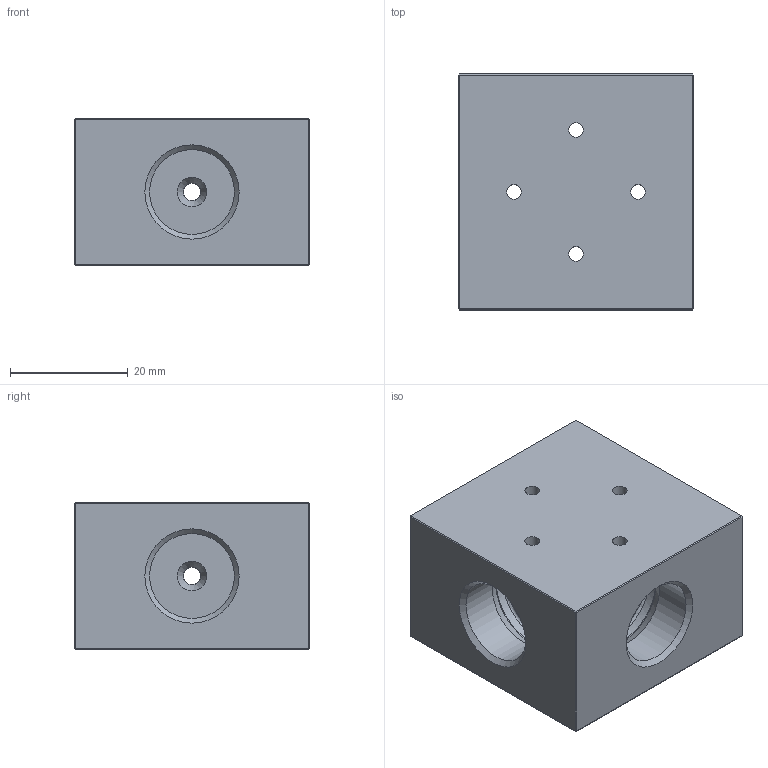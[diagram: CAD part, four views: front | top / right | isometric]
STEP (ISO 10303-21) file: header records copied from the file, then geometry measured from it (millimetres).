
FILE_DESCRIPTION(/* description */ (''),/* implementation_level */ '2;1');
FILE_NAME(/* name */ 'FIT.CRS.M16.1600.stp',/* time_stamp */ '2026-07-09T21:12:48+02:00',/* author */ ('janos'),/* organization */ (''),/* preprocessor_version */ 'ST-DEVELOPER v19.2',/* originating_system */ 'Autodesk Inventor 2024',/* authorisation */ '');
FILE_SCHEMA (('AUTOMOTIVE_DESIGN { 1 0 10303 214 3 1 1 }'));
Length unit declared in the file: millimetre
Products named in the file (1): W.16.1-4.1600
Bounding box: 40 x 40 x 25 mm (x, y, z)
Volume: 31753.7 mm3; surface area: 9815.4 mm2
Topology: 1 solids, 1 shells, 78 faces, 214 edges, 132 vertices
Faces by surface type: plane 30, cylinder 24, cone 12, torus 12
Full cylindrical faces by diameter (mm): 2.5 x8, 3 x4, 14.376 x4
Entity records: 2983 total; most frequent: CARTESIAN_POINT 978, ORIENTED_EDGE 428, DIRECTION 392, EDGE_CURVE 214, AXIS2_PLACEMENT_3D 158, VERTEX_POINT 132, EDGE_LOOP 94, FACE_OUTER_BOUND 78
